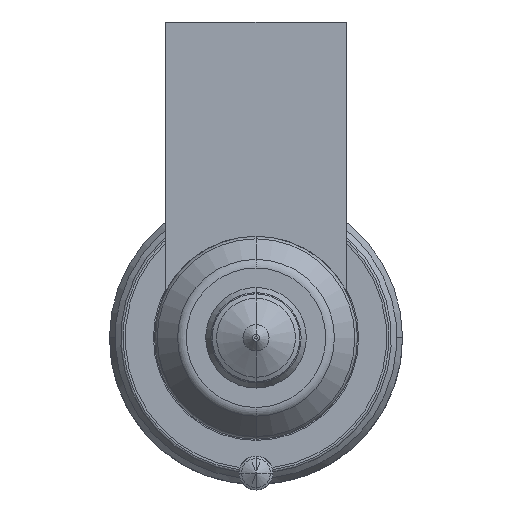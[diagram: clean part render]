
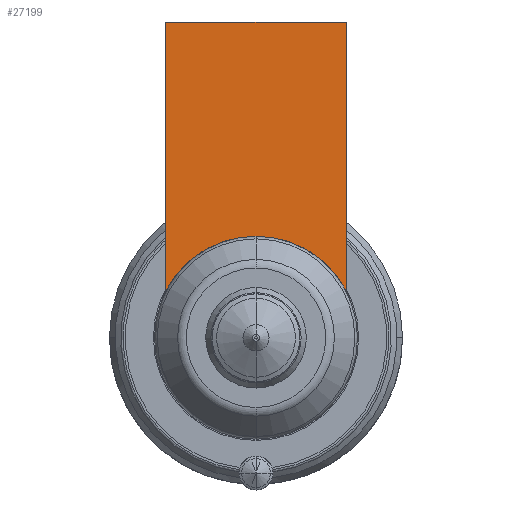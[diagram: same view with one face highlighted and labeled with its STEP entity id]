
A CAD part, front view. The second image highlights one B-rep face of the part: STEP entity #27199.
In plain terms, the highlighted planar face has unit normal (0, -1, 0).
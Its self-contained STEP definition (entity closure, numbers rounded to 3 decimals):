
#26390=CARTESIAN_POINT('',(0.,-54.,0.));
#26391=DIRECTION('',(0.,-1.,0.));
#26392=DIRECTION('',(0.,0.,1.));
#26393=AXIS2_PLACEMENT_3D('',#26390,#26391,#26392);
#26399=DIRECTION('',(1.,0.,0.));
#26400=VECTOR('',#26399,16.);
#26401=CARTESIAN_POINT('',(-8.,-54.,28.));
#26402=LINE('',#26401,#26400);
#26406=CARTESIAN_POINT('',(0.,-54.,0.));
#26407=DIRECTION('',(0.,-1.,0.));
#26408=DIRECTION('',(0.889,0.,0.458));
#26409=AXIS2_PLACEMENT_3D('',#26406,#26407,#26408);
#26557=DIRECTION('',(0.,0.,-1.));
#26558=VECTOR('',#26557,23.877);
#26559=CARTESIAN_POINT('',(8.,-54.,28.));
#26560=LINE('',#26559,#26558);
#26620=DIRECTION('',(0.,0.,-1.));
#26621=VECTOR('',#26620,23.877);
#26622=CARTESIAN_POINT('',(-8.,-54.,28.));
#26623=LINE('',#26622,#26621);
#27157=CARTESIAN_POINT('',(-8.,-54.,28.));
#27158=VERTEX_POINT('',#27157);
#27163=CARTESIAN_POINT('',(8.,-54.,28.));
#27164=VERTEX_POINT('',#27163);
#27169=CARTESIAN_POINT('',(0.,-54.,9.));
#27170=CARTESIAN_POINT('',(-8.,-54.,4.123));
#27171=VERTEX_POINT('',#27169);
#27172=VERTEX_POINT('',#27170);
#27173=CARTESIAN_POINT('',(8.,-54.,4.123));
#27174=VERTEX_POINT('',#27173);
#27182=CARTESIAN_POINT('',(0.,-54.,9.));
#27183=DIRECTION('',(0.,1.,0.));
#27184=DIRECTION('',(0.,0.,-1.));
#27185=AXIS2_PLACEMENT_3D('',#27182,#27183,#27184);
#27186=PLANE('',#27185);
#27188=ORIENTED_EDGE('',*,*,#27187,.T.);
#27190=ORIENTED_EDGE('',*,*,#27189,.F.);
#27192=ORIENTED_EDGE('',*,*,#27191,.T.);
#27194=ORIENTED_EDGE('',*,*,#27193,.T.);
#27196=ORIENTED_EDGE('',*,*,#27195,.T.);
#27197=EDGE_LOOP('',(#27188,#27190,#27192,#27194,#27196));
#27198=FACE_OUTER_BOUND('',#27197,.F.);
#27199=ADVANCED_FACE('',(#27198),#27186,.F.);
#26394=CIRCLE('',#26393,9.);
#26410=CIRCLE('',#26409,9.);
#27187=EDGE_CURVE('',#27171,#27172,#26394,.T.);
#27189=EDGE_CURVE('',#27158,#27172,#26623,.T.);
#27191=EDGE_CURVE('',#27158,#27164,#26402,.T.);
#27193=EDGE_CURVE('',#27164,#27174,#26560,.T.);
#27195=EDGE_CURVE('',#27174,#27171,#26410,.T.);
